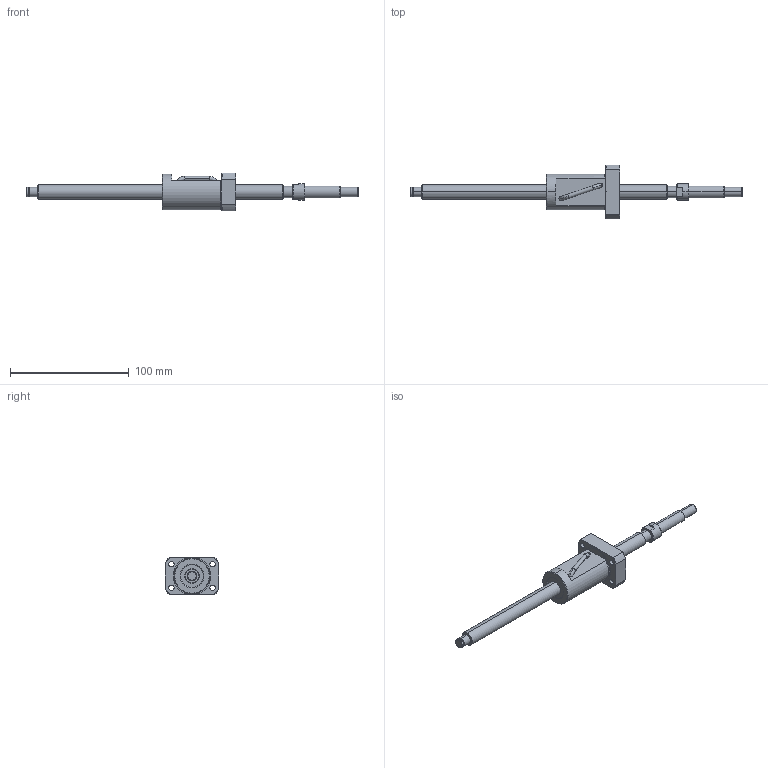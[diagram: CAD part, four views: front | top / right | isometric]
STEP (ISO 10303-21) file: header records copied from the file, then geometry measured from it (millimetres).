
FILE_DESCRIPTION (( 'STEP AP214' ), '1' );
FILE_NAME ('BS1220A-3D.STEP', '2014-03-07T19:31:02', ( '' ), ( '' ), 'SwSTEP 2.0', 'SolidWorks 2012', '' );
FILE_SCHEMA (( 'AUTOMOTIVE_DESIGN' ));
Length unit declared in the file: millimetre
Products named in the file (3): BS1220AŽ²; BS1220Aナット; BS1220A-3D
Assembly tree (2 placements, depth 2):
  BS1220A-3D
    BS1220Aナット
    BS1220AŽ²
Bounding box: 280 x 45 x 32 mm (x, y, z)
Volume: 67724.7 mm3; surface area: 25439.7 mm2
Topology: 4 solids, 4 shells, 162 faces, 403 edges, 257 vertices
Faces by surface type: cylinder 78, plane 43, cone 35, torus 4, bspline 2
Entity records: 6150 total; most frequent: CARTESIAN_POINT 2023, DIRECTION 860, ORIENTED_EDGE 802, EDGE_CURVE 401, AXIS2_PLACEMENT_3D 360, VERTEX_POINT 257, EDGE_LOOP 196, CIRCLE 195
